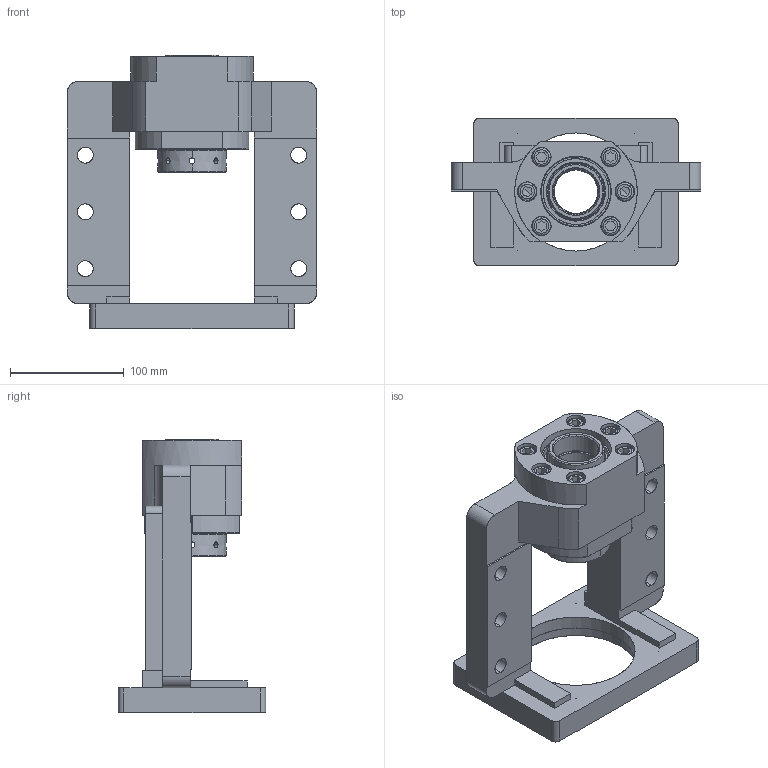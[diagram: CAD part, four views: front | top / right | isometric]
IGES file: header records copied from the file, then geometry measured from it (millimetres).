
Start section: SolidWorks IGES file using analytic representation for surfaces
Bounding box: 220 x 130 x 241 mm (x, y, z)
Surface area: 226694.3 mm2 (no closed solid volume)
Topology: 0 solids, 0 shells, 348 faces, 6848 edges, 6836 vertices
Faces by surface type: revolution 192, bspline 156
